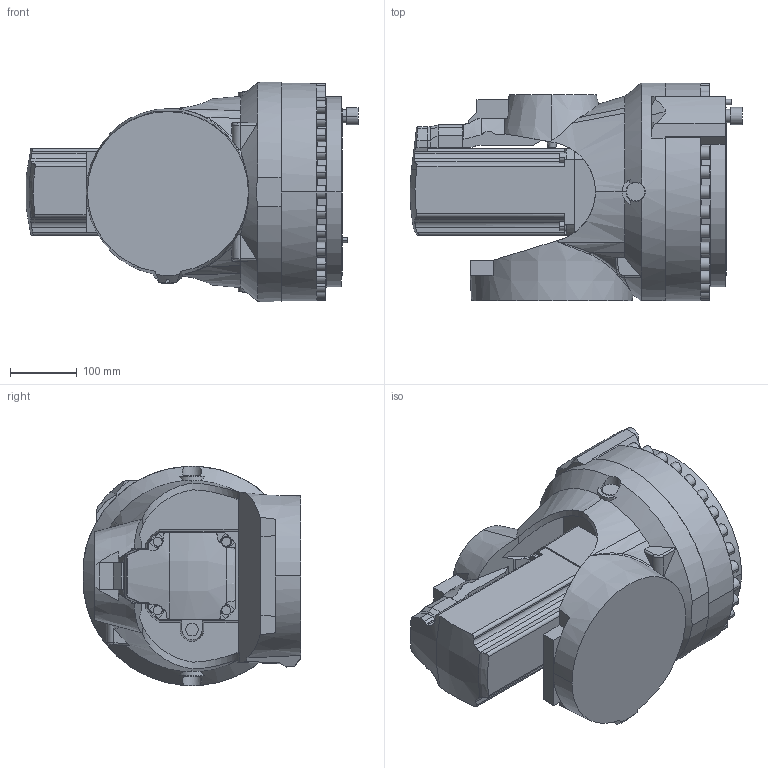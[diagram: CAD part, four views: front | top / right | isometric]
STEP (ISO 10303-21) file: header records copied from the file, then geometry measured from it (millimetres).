
FILE_DESCRIPTION (( 'STEP AP203' ), '1' );
FILE_NAME ('IRB8700_800-350_IRC5_rev00_LINK5_CAD.STEP', '2015-06-04T08:10:35', ( 'ABB' ), ( 'ABB' ), 'SwSTEP 2.0', 'SolidWorks 2014', '' );
FILE_SCHEMA (( 'CONFIG_CONTROL_DESIGN' ));
Length unit declared in the file: millimetre
Products named in the file (1): IRB8700_800-350_IRC5_rev00_LINK5_CAD
Bounding box: 496.12 x 325 x 328 mm (x, y, z)
Volume: 22985632.7 mm3; surface area: 809931.3 mm2
Topology: 1 solids, 2 shells, 450 faces, 1152 edges, 751 vertices
Faces by surface type: plane 196, cylinder 155, bspline 75, cone 24
Entity records: 26247 total; most frequent: CARTESIAN_POINT 15873, ORIENTED_EDGE 2304, DIRECTION 1876, EDGE_CURVE 1152, VERTEX_POINT 751, AXIS2_PLACEMENT_3D 696, EDGE_LOOP 497, VECTOR 484
